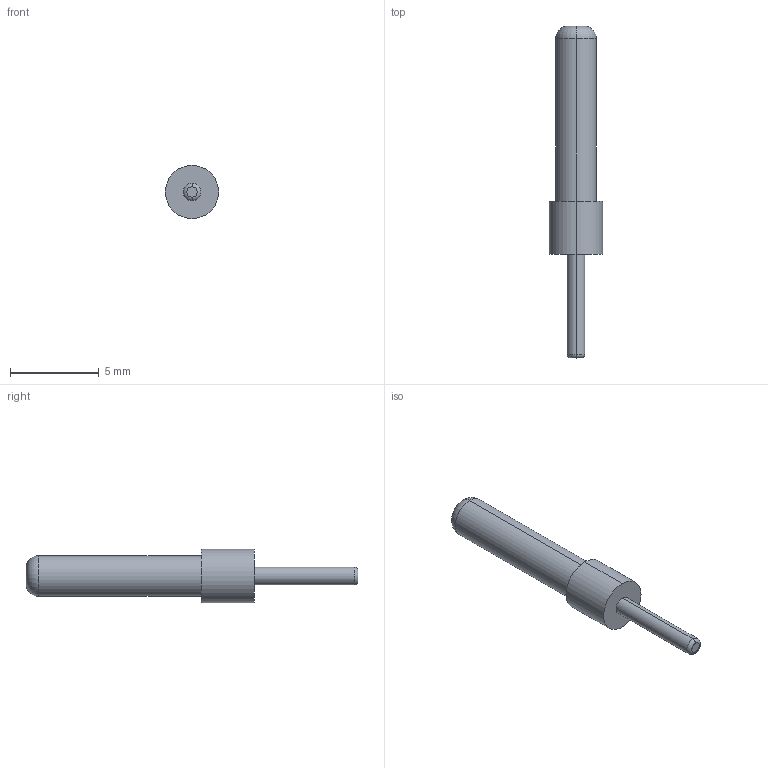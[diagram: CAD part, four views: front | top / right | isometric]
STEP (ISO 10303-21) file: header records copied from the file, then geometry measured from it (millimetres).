
FILE_DESCRIPTION (( 'STEP AP214' ), '1' );
FILE_NAME ('Conector.STEP', '2016-10-05T13:42:57', ( 'aaa' ), ( '' ), 'SwSTEP 2.0', 'SolidWorks 2013', '' );
FILE_SCHEMA (( 'AUTOMOTIVE_DESIGN' ));
Length unit declared in the file: millimetre
Products named in the file (1): Conector
Bounding box: 3 x 18.75 x 3 mm (x, y, z)
Volume: 66.3 mm3; surface area: 129.6 mm2
Topology: 1 solids, 1 shells, 14 faces, 26 edges, 16 vertices
Faces by surface type: cylinder 6, torus 4, plane 4
Entity records: 392 total; most frequent: DIRECTION 76, CARTESIAN_POINT 57, ORIENTED_EDGE 52, AXIS2_PLACEMENT_3D 35, EDGE_CURVE 26, CIRCLE 20, EDGE_LOOP 16, VERTEX_POINT 16
